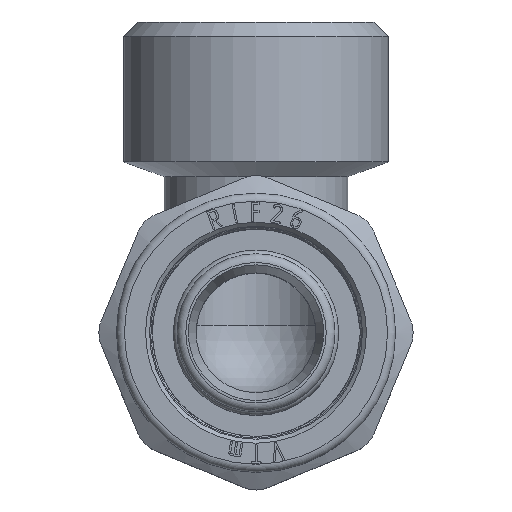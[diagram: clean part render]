
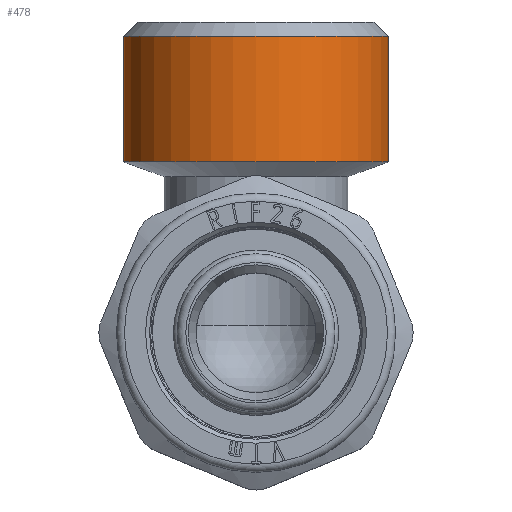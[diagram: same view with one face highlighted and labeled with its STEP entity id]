
A CAD part, top view. The second image highlights one B-rep face of the part: STEP entity #478.
In plain terms, the highlighted cylindrical face has radius 16.625 mm (diameter 33.249 mm), a full revolution.
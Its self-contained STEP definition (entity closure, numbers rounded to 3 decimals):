
#478=ADVANCED_FACE('',(#3582,#3584),#3586,.T.);
#3582=FACE_OUTER_BOUND('',#3583,.T.);
#3583=EDGE_LOOP('',(#6756));
#3584=FACE_OUTER_BOUND('',#3585,.T.);
#3585=EDGE_LOOP('',(#6757));
#3586=CYLINDRICAL_SURFACE('',#3587,16.625);
#3587=AXIS2_PLACEMENT_3D('',#3588,#3589,#3590);
#3588=CARTESIAN_POINT('',(0.,21.5,0.));
#3589=DIRECTION('',(0.,1.,0.));
#3590=DIRECTION('',(-1.,0.,0.));
#6756=ORIENTED_EDGE('',*,*,#8150,.F.);
#6757=ORIENTED_EDGE('',*,*,#7876,.F.);
#7876=EDGE_CURVE('',#9766,#9766,#9767,.F.);
#8150=EDGE_CURVE('',#10178,#10178,#10179,.T.);
#9766=VERTEX_POINT('',#16097);
#9767=CIRCLE('',#16098,16.625);
#10178=VERTEX_POINT('',#17059);
#10179=CIRCLE('',#17060,16.625);
#16097=CARTESIAN_POINT('',(-16.625,21.5,0.));
#16098=AXIS2_PLACEMENT_3D('',#16099,#16100,#16101);
#16099=CARTESIAN_POINT('',(0.,21.5,0.));
#16100=DIRECTION('',(0.,1.,0.));
#16101=DIRECTION('',(-1.,0.,0.));
#17059=CARTESIAN_POINT('',(-16.625,37.2,0.));
#17060=AXIS2_PLACEMENT_3D('',#17061,#17062,#17063);
#17061=CARTESIAN_POINT('',(0.,37.2,0.));
#17062=DIRECTION('',(0.,1.,0.));
#17063=DIRECTION('',(-1.,0.,0.));
